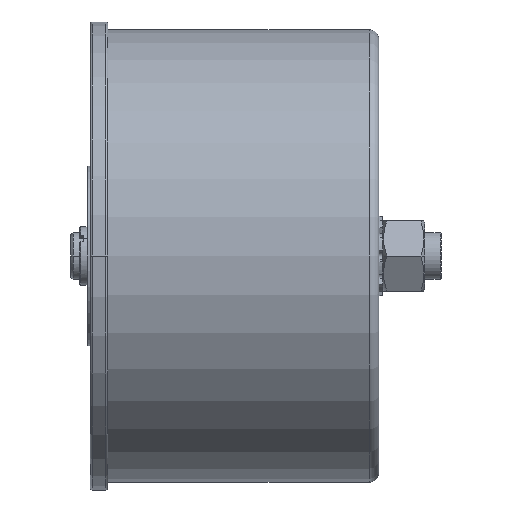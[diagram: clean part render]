
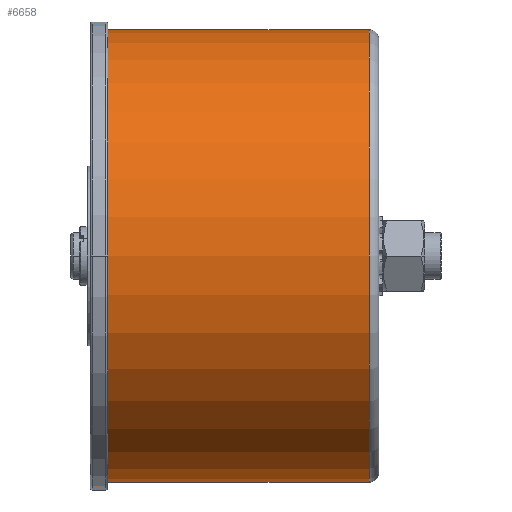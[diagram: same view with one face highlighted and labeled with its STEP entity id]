
A CAD part, left-side view. The second image highlights one B-rep face of the part: STEP entity #6658.
In plain terms, the highlighted cylindrical face has radius 58 mm (diameter 116 mm), a partial arc.
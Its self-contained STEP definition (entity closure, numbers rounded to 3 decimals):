
#87 = EDGE_CURVE ( 'NONE', #1189, #6924, #7636, .T. ) ;
#245 = DIRECTION ( 'NONE',  ( 0., -1., 0. ) ) ;
#373 = CARTESIAN_POINT ( 'NONE',  ( 0., -0.6, 0. ) ) ;
#522 = CARTESIAN_POINT ( 'NONE',  ( 0., -69.9, 0. ) ) ;
#752 = CARTESIAN_POINT ( 'NONE',  ( 0., -72.4, 0. ) ) ;
#776 = EDGE_CURVE ( 'NONE', #6924, #8697, #9424, .T. ) ;
#1189 = VERTEX_POINT ( 'NONE', #3327 ) ;
#1509 = DIRECTION ( 'NONE',  ( 0., 1., 0. ) ) ;
#2026 = DIRECTION ( 'NONE',  ( 0., -1., 0. ) ) ;
#2213 = AXIS2_PLACEMENT_3D ( 'NONE', #752, #6512, #7597 ) ;
#2304 = DIRECTION ( 'NONE',  ( 0., 0., -1. ) ) ;
#2849 = VECTOR ( 'NONE', #2026, 1000. ) ;
#3005 = EDGE_CURVE ( 'NONE', #10039, #1189, #10704, .T. ) ;
#3327 = CARTESIAN_POINT ( 'NONE',  ( 0., -0.6, -58. ) ) ;
#3792 = EDGE_LOOP ( 'NONE', ( #12051, #12352, #11547, #12072 ) ) ;
#4020 = CARTESIAN_POINT ( 'NONE',  ( 0., -69.9, -58. ) ) ;
#6354 = EDGE_CURVE ( 'NONE', #10039, #8697, #12009, .T. ) ;
#6512 = DIRECTION ( 'NONE',  ( 0., -1., 0. ) ) ;
#6658 = ADVANCED_FACE ( 'NONE', ( #10955 ), #8847, .T. ) ;
#6924 = VERTEX_POINT ( 'NONE', #4020 ) ;
#7065 = DIRECTION ( 'NONE',  ( 0., -1., 0. ) ) ;
#7571 = AXIS2_PLACEMENT_3D ( 'NONE', #522, #1509, #10052 ) ;
#7597 = DIRECTION ( 'NONE',  ( 0., 0., -1. ) ) ;
#7636 = LINE ( 'NONE', #7691, #2849 ) ;
#7691 = CARTESIAN_POINT ( 'NONE',  ( 0., -72.4, -58. ) ) ;
#7966 = VECTOR ( 'NONE', #245, 1000. ) ;
#8697 = VERTEX_POINT ( 'NONE', #9138 ) ;
#8847 = CYLINDRICAL_SURFACE ( 'NONE', #2213, 58. ) ;
#9138 = CARTESIAN_POINT ( 'NONE',  ( 0., -69.9, 58. ) ) ;
#9424 = CIRCLE ( 'NONE', #7571, 58. ) ;
#10039 = VERTEX_POINT ( 'NONE', #11546 ) ;
#10052 = DIRECTION ( 'NONE',  ( 0., 0., -1. ) ) ;
#10704 = CIRCLE ( 'NONE', #11215, 58. ) ;
#10955 = FACE_OUTER_BOUND ( 'NONE', #3792, .T. ) ;
#11215 = AXIS2_PLACEMENT_3D ( 'NONE', #373, #7065, #2304 ) ;
#11546 = CARTESIAN_POINT ( 'NONE',  ( 0., -0.6, 58. ) ) ;
#11547 = ORIENTED_EDGE ( 'NONE', *, *, #87, .T. ) ;
#11671 = CARTESIAN_POINT ( 'NONE',  ( 0., -72.4, 58. ) ) ;
#12009 = LINE ( 'NONE', #11671, #7966 ) ;
#12051 = ORIENTED_EDGE ( 'NONE', *, *, #6354, .F. ) ;
#12072 = ORIENTED_EDGE ( 'NONE', *, *, #776, .T. ) ;
#12352 = ORIENTED_EDGE ( 'NONE', *, *, #3005, .T. ) ;
